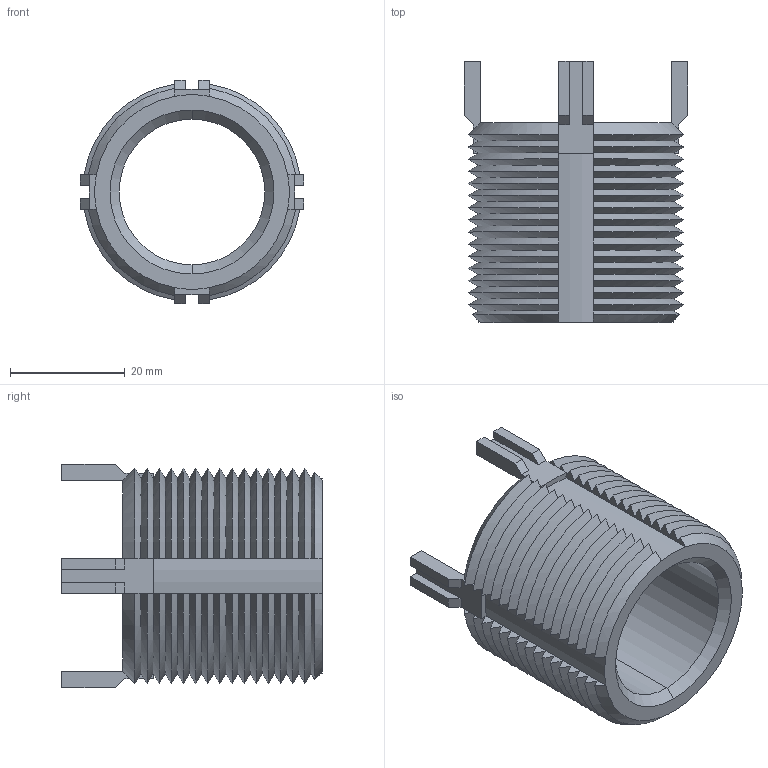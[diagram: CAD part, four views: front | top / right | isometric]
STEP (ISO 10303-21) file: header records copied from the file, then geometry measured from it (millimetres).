
FILE_DESCRIPTION (( 'STEP AP203' ), '1' );
FILE_NAME ('22034.W0430.step', '2023-04-20T10:00:00', ( '' ), ( '' ), 'SwSTEP 2.0', 'SolidWorks 2019', '' );
FILE_SCHEMA (( 'CONFIG_CONTROL_DESIGN' ));
Length unit declared in the file: millimetre
Products named in the file (1): 22034.W0430
Bounding box: 38.93 x 45.45 x 38.93 mm (x, y, z)
Volume: 17690.6 mm3; surface area: 11575.6 mm2
Topology: 1 solids, 1 shells, 228 faces, 618 edges, 392 vertices
Faces by surface type: cone 132, plane 90, cylinder 6
Entity records: 8199 total; most frequent: CARTESIAN_POINT 2859, ORIENTED_EDGE 1236, DIRECTION 928, EDGE_CURVE 618, VERTEX_POINT 392, AXIS2_PLACEMENT_3D 377, B_SPLINE_CURVE_WITH_KNOTS 296, EDGE_LOOP 230
